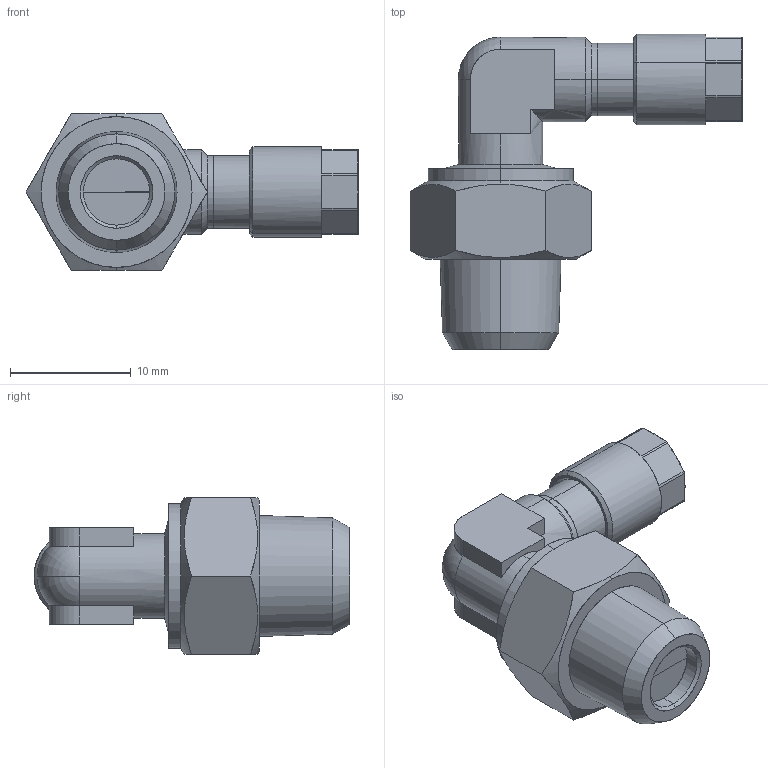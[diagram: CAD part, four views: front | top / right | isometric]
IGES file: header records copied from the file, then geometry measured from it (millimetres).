
Start section: SolidWorks IGES file using analytic representation for surfaces
Global section: file name: K:\Disegni Esecutivi\Serie 1000\Complessivi Serie 1000\1110\1110_iges\0111000006A.IGS; native system: SolidWorks 2008; preprocessor: SolidWorks 2008; author: cad05; date: 090205.144228; units: millimetre
Bounding box: 27.51 x 26.15 x 13 mm (x, y, z)
Surface area: 1550.4 mm2 (no closed solid volume)
Topology: 0 solids, 0 shells, 104 faces, 1133 edges, 1129 vertices
Faces by surface type: revolution 57, bspline 47
